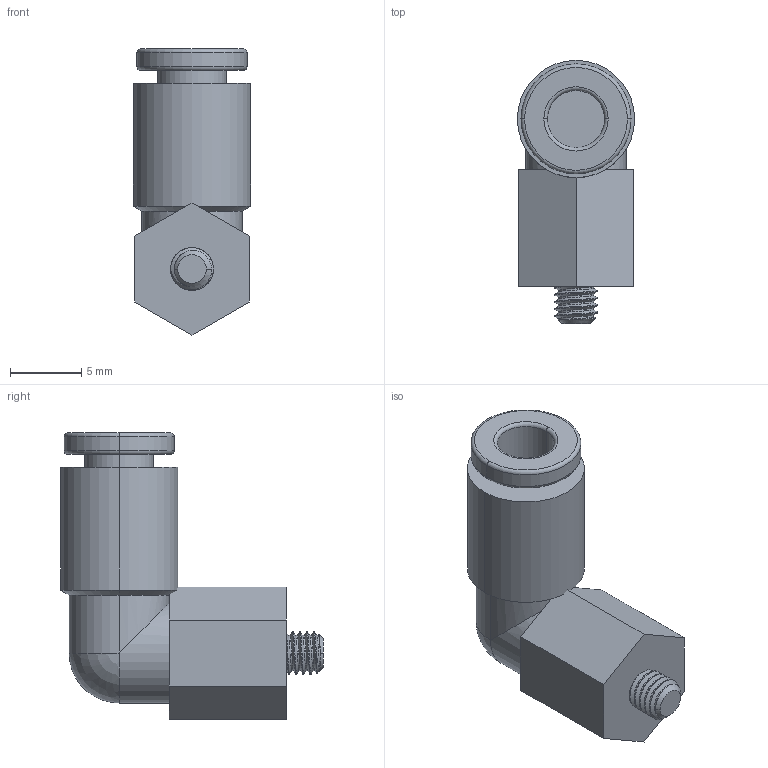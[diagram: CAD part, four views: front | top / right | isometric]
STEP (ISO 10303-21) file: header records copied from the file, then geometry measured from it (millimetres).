
FILE_DESCRIPTION (( 'STEP AP214' ), '1' );
FILE_NAME ('KQ2L04-M3G.step.step', '2022-12-03T05:04:04', ( '' ), ( '' ), 'SwSTEP 2.0', 'SolidWorks 2022', '' );
FILE_SCHEMA (( 'AUTOMOTIVE_DESIGN' ));
Length unit declared in the file: millimetre
Products named in the file (4): KQ2L04-M3G.step_BUTTON_04; KQ2L04-M3G.step_STUD_M_M3; KQ2L04-M3G.step; KQ2L04-M3G.step_KQ2(L-LF-LE-W)_04-M3
Assembly tree (3 placements, depth 2):
  KQ2L04-M3G.step
    KQ2L04-M3G.step_STUD_M_M3
    KQ2L04-M3G.step_KQ2(L-LF-LE-W)_04-M3
    KQ2L04-M3G.step_BUTTON_04
Bounding box: 8.2 x 18.4 x 20.02 mm (x, y, z)
Volume: 1135.4 mm3; surface area: 1462.3 mm2
Topology: 3 solids, 3 shells, 65 faces, 154 edges, 96 vertices
Faces by surface type: cylinder 35, plane 15, torus 6, cone 5, bspline 2, sphere 2
Entity records: 2491 total; most frequent: CARTESIAN_POINT 951, ORIENTED_EDGE 304, DIRECTION 291, EDGE_CURVE 152, AXIS2_PLACEMENT_3D 118, VERTEX_POINT 96, EDGE_LOOP 70, ADVANCED_FACE 65
